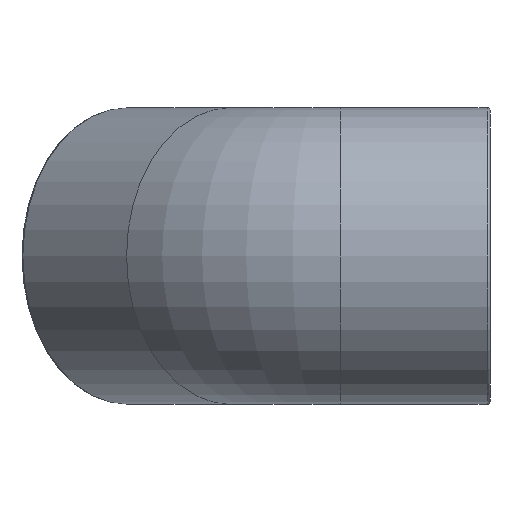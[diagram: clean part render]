
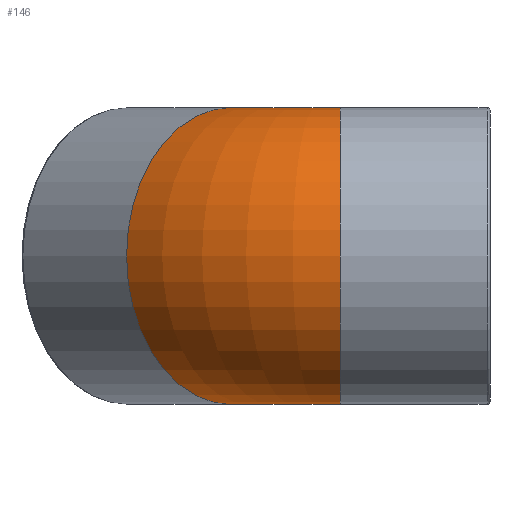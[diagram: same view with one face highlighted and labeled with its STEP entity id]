
A CAD part, left-side view. The second image highlights one B-rep face of the part: STEP entity #146.
In plain terms, the highlighted toroidal (fillet/blend) face has major radius 26 mm and minor radius 25 mm.
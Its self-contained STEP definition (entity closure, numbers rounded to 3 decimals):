
#36=FACE_BOUND('',#72,.T.);
#48=FACE_OUTER_BOUND('',#71,.T.);
#71=EDGE_LOOP('',(#129));
#72=EDGE_LOOP('',(#130));
#75=CIRCLE('',#153,25.);
#79=CIRCLE('',#160,25.);
#85=VERTEX_POINT('',#224);
#89=VERTEX_POINT('',#235);
#97=EDGE_CURVE('',#85,#85,#75,.T.);
#101=EDGE_CURVE('',#89,#89,#79,.T.);
#129=ORIENTED_EDGE('',*,*,#101,.F.);
#130=ORIENTED_EDGE('',*,*,#97,.T.);
#134=TOROIDAL_SURFACE('',#170,26.,25.);
#146=ADVANCED_FACE('',(#48,#36),#134,.T.);
#153=AXIS2_PLACEMENT_3D('',#225,#181,#182);
#160=AXIS2_PLACEMENT_3D('',#236,#195,#196);
#170=AXIS2_PLACEMENT_3D('',#383,#215,#216);
#181=DIRECTION('center_axis',(0.,1.,0.));
#182=DIRECTION('ref_axis',(1.,0.,0.));
#195=DIRECTION('center_axis',(0.707,0.707,0.));
#196=DIRECTION('ref_axis',(0.707,-0.707,0.));
#215=DIRECTION('center_axis',(0.,0.,-1.));
#216=DIRECTION('ref_axis',(-1.,0.,0.));
#224=CARTESIAN_POINT('',(-25.,25.23,0.));
#225=CARTESIAN_POINT('Origin',(0.,25.23,0.));
#235=CARTESIAN_POINT('',(-10.062,61.293,0.));
#236=CARTESIAN_POINT('Origin',(7.615,43.615,0.));
#383=CARTESIAN_POINT('Origin',(26.,25.23,0.));
